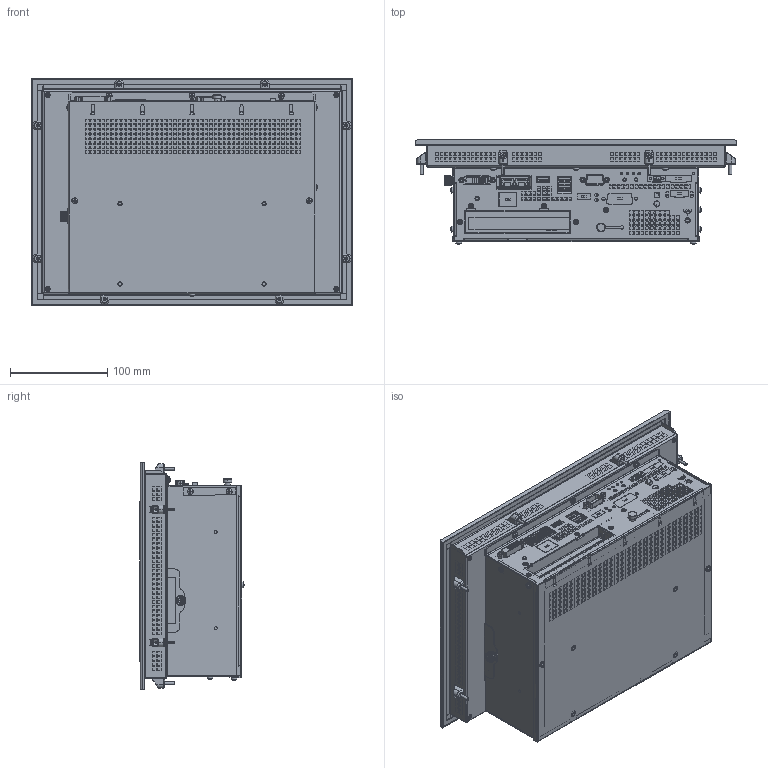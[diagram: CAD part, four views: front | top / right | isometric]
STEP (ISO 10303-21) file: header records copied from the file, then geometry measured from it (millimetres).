
FILE_DESCRIPTION((''),'2;1');
FILE_NAME('C6E22-Panel_121W_CAP_S1','2017-02-28T',('manpal'),(''),'PRO/ENGINEER BY PARAMETRIC TECHNOLOGY CORPORATION, 2013410','PRO/ENGINEER BY PARAMETRIC TECHNOLOGY CORPORATION, 2013410','');
FILE_SCHEMA(('AUTOMOTIVE_DESIGN { 1 0 10303 214 1 1 1 1 }'));
Products named in the file (2): C6E22-Panel_121W_CAP_S1_
Assembly tree (1 placements, depth 2):
  C6E22-Panel_121W_CAP_S1_
    C6E22-Panel_121W_CAP_S1_
Bounding box: 331 x 107.19 x 234 mm (x, y, z)
Surface area: 641873.4 mm2 (no closed solid volume)
Topology: 0 solids, 314 shells, 5443 faces, 22531 edges, 17208 vertices
Faces by surface type: plane 4230, cylinder 707, cone 268, bspline 166, sphere 42, torus 28, extrusion 2
Entity records: 260145 total; most frequent: CARTESIAN_POINT 61003, DIRECTION 34781, ORIENTED_EDGE 32955, EDGE_CURVE 22487, VECTOR 18351, LINE 18349, VERTEX_POINT 17208, AXIS2_PLACEMENT_3D 8215
